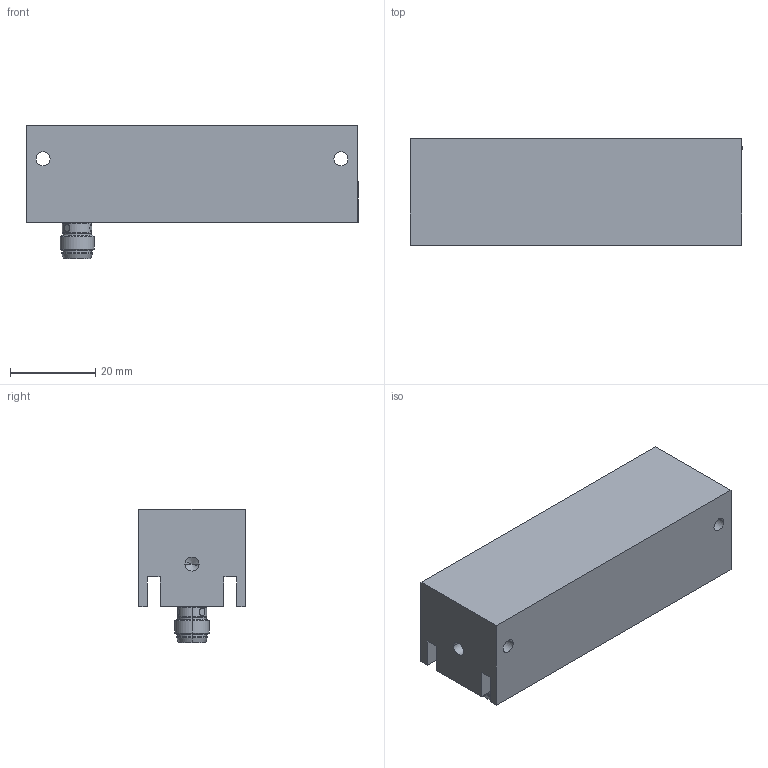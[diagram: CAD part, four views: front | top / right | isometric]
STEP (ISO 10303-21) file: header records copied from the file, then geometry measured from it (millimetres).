
FILE_DESCRIPTION(('STEP AP214'),'1');
FILE_NAME('Z:/Projekte Hr. Wünsch/SpaceClaim/TOP-HI-LINE-D/LINE-D1-NEU/Gehäuse-LINE-D1-Kundendatei.stp','2014-06-23T07:48:04',(' '),(' '),'Spatial InterOp 3D',' ',' ');
FILE_SCHEMA(('automotive_design'));
Length unit declared in the file: millimetre
Products named in the file (2): Gehäuse-LINE-D1-Kundendatei; M8-Einbaustecker
Assembly tree (1 placements, depth 2):
  Gehäuse-LINE-D1-Kundendatei
    M8-Einbaustecker
Bounding box: 78 x 25 x 31.4 mm (x, y, z)
Volume: 38614.8 mm3; surface area: 13392.8 mm2
Topology: 1 solids, 2 shells, 128 faces, 323 edges, 199 vertices
Faces by surface type: cylinder 72, plane 34, cone 18, sphere 4
Entity records: 5317 total; most frequent: CARTESIAN_POINT 1202, DIRECTION 663, ORIENTED_EDGE 614, EDGE_CURVE 307, AXIS2_PLACEMENT_3D 268, VERTEX_POINT 199, EDGE_LOOP 148, CIRCLE 135
